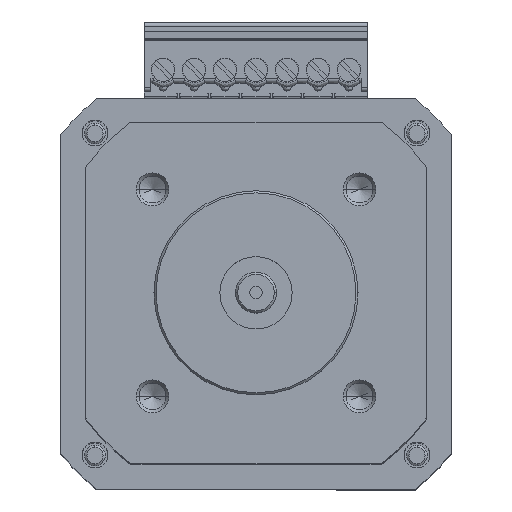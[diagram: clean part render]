
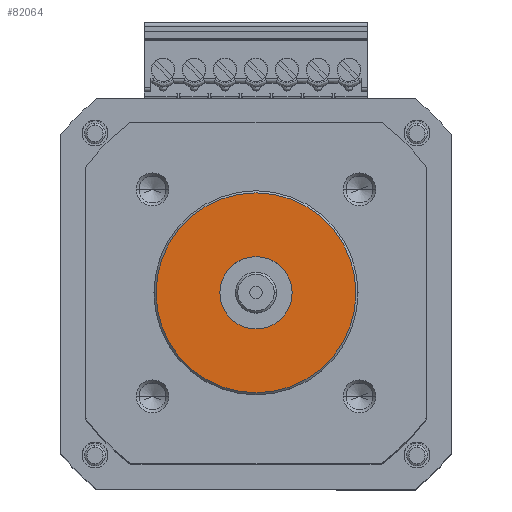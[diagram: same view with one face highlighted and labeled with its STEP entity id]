
A CAD part, top view. The second image highlights one B-rep face of the part: STEP entity #82064.
In plain terms, the highlighted planar face has unit normal (0, 0, 1).
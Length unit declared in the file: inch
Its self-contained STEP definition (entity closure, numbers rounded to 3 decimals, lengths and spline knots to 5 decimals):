
#31305 = CARTESIAN_POINT ( 'NONE',  ( 0.175, 0., 0.12 ) ) ;
#31339 = CARTESIAN_POINT ( 'NONE',  ( -0.175, 0., 0.12 ) ) ;
#31442 = CARTESIAN_POINT ( 'NONE',  ( -0.484, 0., 0.12 ) ) ;
#31446 = CARTESIAN_POINT ( 'NONE',  ( 0.484, 0., 0.12 ) ) ;
#31574 = DIRECTION ( 'NONE',  ( 1., 0., 0. ) ) ;
#31575 = DIRECTION ( 'NONE',  ( 0., 0., 1. ) ) ;
#31576 = CARTESIAN_POINT ( 'NONE',  ( 0., 0., 0.12 ) ) ;
#31577 = AXIS2_PLACEMENT_3D ( 'NONE', #31576, #31575, #31574 ) ;
#31581 = CIRCLE ( 'NONE', #31577, 0.484 ) ;
#31725 = DIRECTION ( 'NONE',  ( 1., 0., 0. ) ) ;
#31727 = DIRECTION ( 'NONE',  ( 0., 0., 1. ) ) ;
#31729 = AXIS2_PLACEMENT_3D ( 'NONE', #31760, #31727, #31725 ) ;
#31756 = CIRCLE ( 'NONE', #31729, 0.175 ) ;
#31760 = CARTESIAN_POINT ( 'NONE',  ( 0., 0., 0.12 ) ) ;
#33721 = PLANE ( 'NONE',  #33825 ) ;
#33823 = CARTESIAN_POINT ( 'NONE',  ( 0., 0., 0.12 ) ) ;
#33825 = AXIS2_PLACEMENT_3D ( 'NONE', #33823, #33890, #33889 ) ;
#33829 = FACE_BOUND ( 'NONE', #82069, .T. ) ;
#33831 = FACE_OUTER_BOUND ( 'NONE', #82085, .T. ) ;
#33852 = CIRCLE ( 'NONE', #33888, 0.484 ) ;
#33888 = AXIS2_PLACEMENT_3D ( 'NONE', #33951, #33943, #33942 ) ;
#33889 = DIRECTION ( 'NONE',  ( 1., 0., 0. ) ) ;
#33890 = DIRECTION ( 'NONE',  ( 0., 0., 1. ) ) ;
#33942 = DIRECTION ( 'NONE',  ( 1., 0., 0. ) ) ;
#33943 = DIRECTION ( 'NONE',  ( 0., 0., 1. ) ) ;
#33951 = CARTESIAN_POINT ( 'NONE',  ( 0., 0., 0.12 ) ) ;
#33984 = DIRECTION ( 'NONE',  ( 1., 0., 0. ) ) ;
#33985 = DIRECTION ( 'NONE',  ( 0., 0., 1. ) ) ;
#33986 = CARTESIAN_POINT ( 'NONE',  ( 0., 0., 0.12 ) ) ;
#33988 = AXIS2_PLACEMENT_3D ( 'NONE', #33986, #33985, #33984 ) ;
#34000 = CIRCLE ( 'NONE', #33988, 0.175 ) ;
#81285 = VERTEX_POINT ( 'NONE', #31339 ) ;
#81298 = VERTEX_POINT ( 'NONE', #31305 ) ;
#81326 = VERTEX_POINT ( 'NONE', #31442 ) ;
#81339 = VERTEX_POINT ( 'NONE', #31446 ) ;
#81351 = EDGE_CURVE ( 'NONE', #81339, #81326, #31581, .T. ) ;
#81379 = EDGE_CURVE ( 'NONE', #81285, #81298, #31756, .T. ) ;
#82064 = ADVANCED_FACE ( 'NONE', ( #33831, #33829 ), #33721, .T. ) ;
#82066 = ORIENTED_EDGE ( 'NONE', *, *, #81379, .F. ) ;
#82069 = EDGE_LOOP ( 'NONE', ( #82066, #82072 ) ) ;
#82070 = ORIENTED_EDGE ( 'NONE', *, *, #81351, .T. ) ;
#82072 = ORIENTED_EDGE ( 'NONE', *, *, #82083, .F. ) ;
#82076 = EDGE_CURVE ( 'NONE', #81326, #81339, #33852, .T. ) ;
#82077 = ORIENTED_EDGE ( 'NONE', *, *, #82076, .T. ) ;
#82083 = EDGE_CURVE ( 'NONE', #81298, #81285, #34000, .T. ) ;
#82085 = EDGE_LOOP ( 'NONE', ( #82077, #82070 ) ) ;
